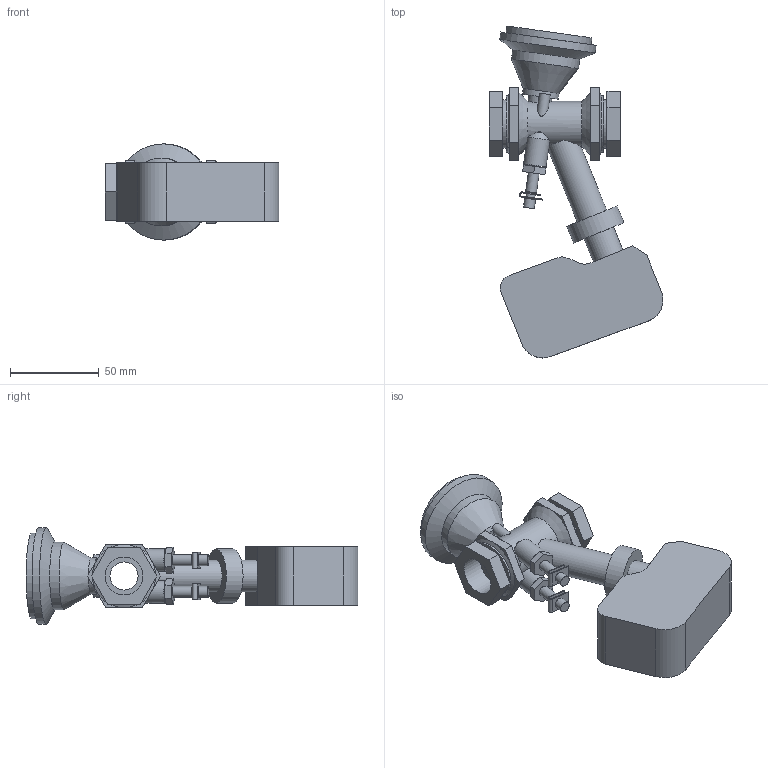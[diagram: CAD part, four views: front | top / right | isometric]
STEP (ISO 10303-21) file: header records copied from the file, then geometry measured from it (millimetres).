
FILE_DESCRIPTION(/* description */ ('VIC BALANCING AND CONTROL VALVE SERIES 7CP (FPT)-TA SLIDER 160 PLUS','CAx-IF Rec.Pracs.---Representation and Presentation of Product Manufacturing Information (PMI)---4.0---2014-10-13'),/* implementation_level */ '2;1');
FILE_NAME(/* name */ 'C:\Users\Vjadhav\AppData\Roaming\Autodesk\ApplicationPlugins\Victaulic.Temp\A633\Victaulic_IPS_Valve Balancing Pressure Independent_TA Series 7CP (FPT)_Slider 160 Plus_0.5 (15).stp',/* time_stamp */ '2021-09-14T20:03:08+06:00',/* author */ ('Vjadhav'),/* organization */ ('Victaulic'),/* preprocessor_version */ 'ST-DEVELOPER v17.2',/* originating_system */ 'Autodesk Inventor 2019',/* authorisation */ '');
FILE_SCHEMA (('AP242_MANAGED_MODEL_BASED_3D_ENGINEERING_MIM_LF { 1 0 10303 442 1 1 4 }'));
Length unit declared in the file: inch
Products named in the file (2): 7CP_Slider 160 Plus-0.5; 7CP-0.5
Assembly tree (1 placements, depth 2):
  7CP_Slider 160 Plus-0.5
    7CP-0.5
Bounding box: 97.8 x 186.69 x 54.1 mm (x, y, z)
Volume: 223640.4 mm3; surface area: 47512.1 mm2
Topology: 1 solids, 1 shells, 172 faces, 440 edges, 294 vertices
Faces by surface type: plane 118, cylinder 46, cone 8
Full cylindrical faces by diameter (mm): 5.08 x6, 6.096 x8, 12.7 x2, 15.799 x2, 17.78 x2, 20.32 x1, 21.336 x3, 25.4 x1, 27.432 x2, 30.471 x1, 31.75 x2, 38.1 x1, 48.26 x1, 54.102 x1
Entity records: 5782 total; most frequent: CARTESIAN_POINT 1154, DIRECTION 942, ORIENTED_EDGE 880, EDGE_CURVE 440, AXIS2_PLACEMENT_3D 348, VERTEX_POINT 294, LINE 246, VECTOR 246
